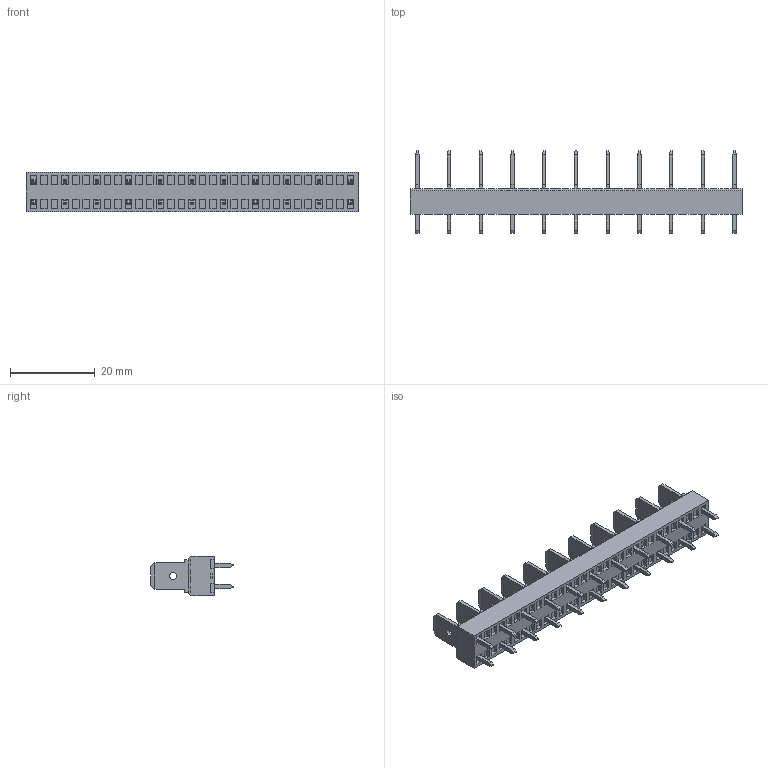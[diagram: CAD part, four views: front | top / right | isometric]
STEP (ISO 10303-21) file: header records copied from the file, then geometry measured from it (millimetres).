
FILE_DESCRIPTION (( 'STEP AP214' ), '1' );
FILE_NAME ('900-SUN-7.5-11.STEP', '2007-11-01T03:00:13', ( ' ' ), ( '' ), 'SwSTEP 2.0', 'SolidWorks 2007', '' );
FILE_SCHEMA (( 'AUTOMOTIVE_DESIGN' ));
Length unit declared in the file: millimetre
Products named in the file (1): 900-SUN-7.5-11
Bounding box: 78.5 x 19.5 x 9.4 mm (x, y, z)
Volume: 4698.8 mm3; surface area: 5121.2 mm2
Topology: 33 solids, 33 shells, 1557 faces, 3744 edges, 2368 vertices
Faces by surface type: plane 1387, cylinder 170
Entity records: 44461 total; most frequent: CARTESIAN_POINT 7670, ORIENTED_EDGE 7488, DIRECTION 7200, EDGE_CURVE 3744, VECTOR 3404, LINE 3404, VERTEX_POINT 2368, AXIS2_PLACEMENT_3D 1898
